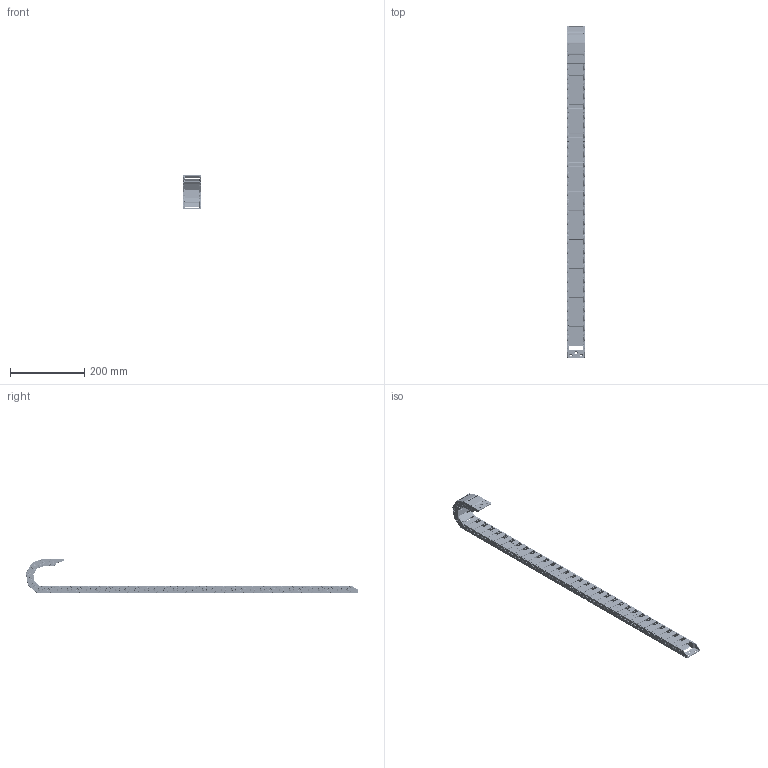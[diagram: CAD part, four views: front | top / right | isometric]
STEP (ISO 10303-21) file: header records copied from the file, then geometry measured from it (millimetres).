
FILE_DESCRIPTION(/* description */ (''),/* implementation_level */ '2;1');
FILE_NAME(/* name */ 'BFCK15x40R38.prt.stp',/* time_stamp */ '2022-11-17T13:24:49+08:00',/* author */ (''),/* organization */ (''),/* preprocessor_version */ 'ST-DEVELOPER v16',/* originating_system */ 'SIEMENS PLM Software NX 10.0',/* authorisation */ '');
FILE_SCHEMA (('CONFIG_CONTROL_DESIGN'));
Products named in the file (1): BFCK15x40R38
Bounding box: 48.96 x 894.07 x 93.07 mm (x, y, z)
Volume: 246069.3 mm3; surface area: 290210.1 mm2
Topology: 76 solids, 76 shells, 12095 faces, 30624 edges, 18136 vertices
Faces by surface type: cylinder 5202, plane 4143, torus 1009, sphere 903, bspline 707, cone 88, extrusion 43
Full cylindrical faces by diameter (mm): 6 x2, 6.05 x2, 6.058 x148
Entity records: 379960 total; most frequent: CARTESIAN_POINT 96385, DIRECTION 60455, ORIENTED_EDGE 58914, EDGE_CURVE 29457, AXIS2_PLACEMENT_3D 22303, VERTEX_POINT 17949, VECTOR 15849, LINE 15806
